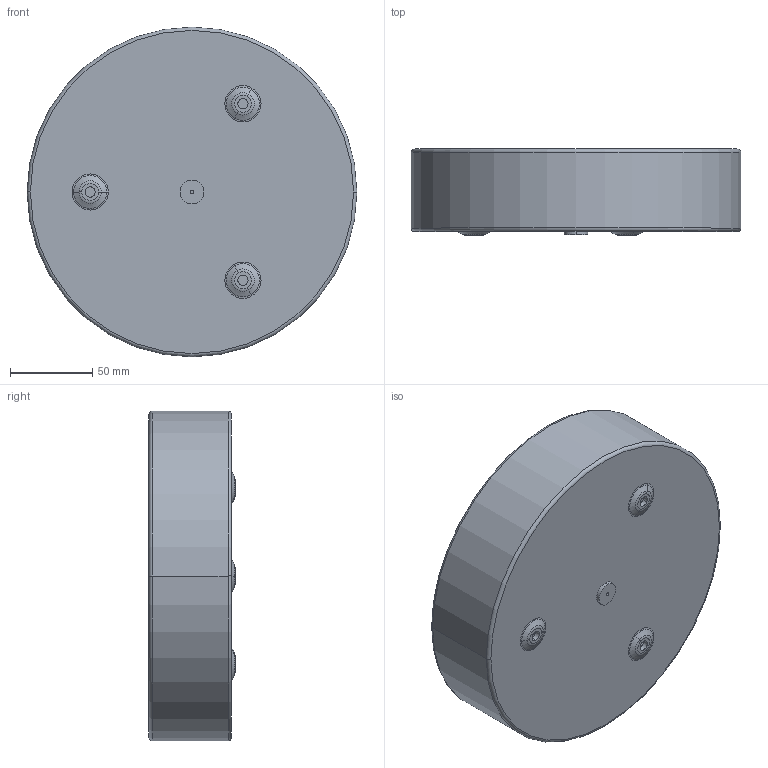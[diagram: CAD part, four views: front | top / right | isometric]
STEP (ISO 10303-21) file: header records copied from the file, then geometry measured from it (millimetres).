
FILE_DESCRIPTION((''),'2;1');
FILE_NAME('ASM0001_ASM','2026-03-17T15:47:42',('Administrator'),(''),'CREO PARAMETRIC BY PTC INC, 2021164','CREO PARAMETRIC BY PTC INC, 2021164','');
FILE_SCHEMA(('CONFIG_CONTROL_DESIGN','SHAPE_APPEARANCE_LAYERS_GROUPS'));
Length unit declared in the file: millimetre
Products named in the file (3): PRT0001; PRT0002; ASM0001_ASM
Assembly tree (2 placements, depth 2):
  ASM0001_ASM
    PRT0001
    PRT0002
Bounding box: 200 x 52.2 x 200 mm (x, y, z)
Volume: 104113.1 mm3; surface area: 193368.2 mm2
Topology: 2 solids, 2 shells, 56 faces, 116 edges, 70 vertices
Faces by surface type: torus 22, cylinder 18, plane 10, cone 6
Entity records: 2398 total; most frequent: DIRECTION 330, CARTESIAN_POINT 247, ORIENTED_EDGE 232, PRESENTATION_STYLE_ASSIGNMENT 174, STYLED_ITEM 174, AXIS2_PLACEMENT_3D 153, CURVE_STYLE 116, EDGE_CURVE 116
